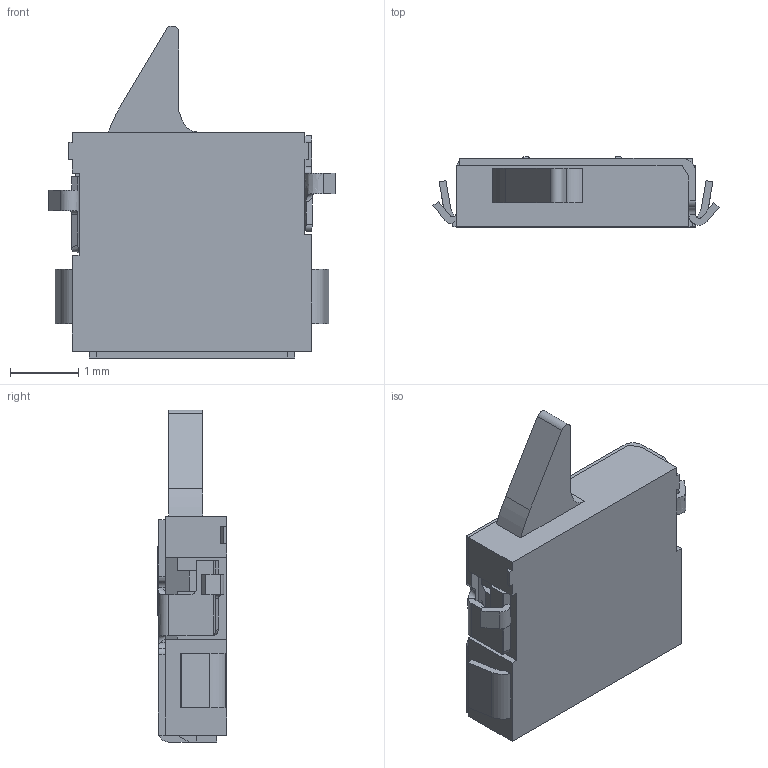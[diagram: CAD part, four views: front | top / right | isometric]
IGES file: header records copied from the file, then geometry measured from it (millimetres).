
Start section:  PTC IGES file: c-2331386-1-a-3d.igs
Global section: file name: c-2331386-1-a-3d.igs; native system: Creo Parametric by PTC Inc.; preprocessor: 2016050; author: workeradm; organization: Unknown; units: millimetre
Bounding box: 4.18 x 1.02 x 4.85 mm (x, y, z)
Surface area: 44.2 mm2 (no closed solid volume)
Topology: 0 solids, 0 shells, 168 faces, 960 edges, 960 vertices
Faces by surface type: bspline 113, revolution 53, extrusion 2
